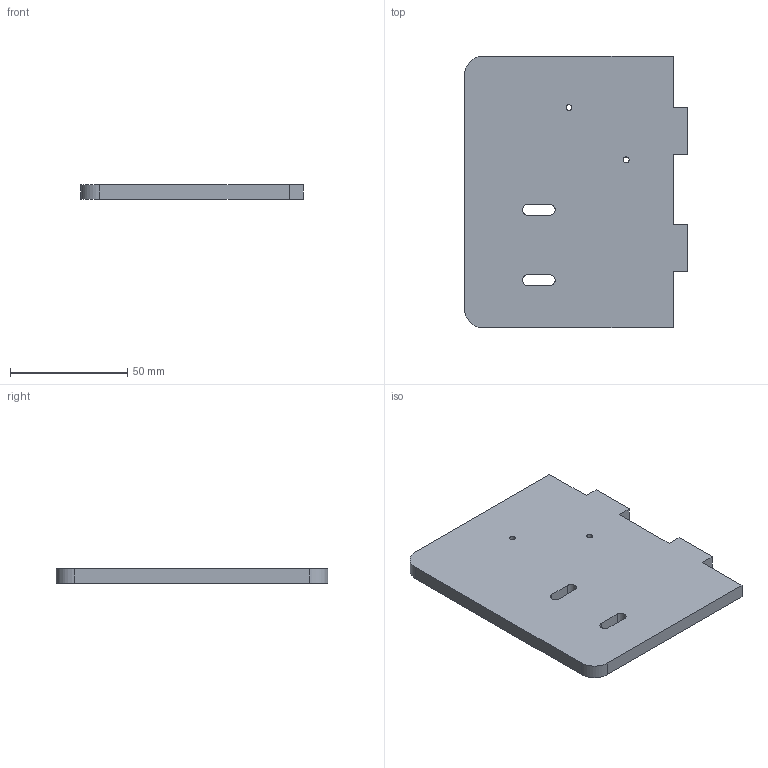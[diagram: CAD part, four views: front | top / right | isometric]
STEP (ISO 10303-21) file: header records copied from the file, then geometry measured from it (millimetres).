
FILE_DESCRIPTION(('Open CASCADE Model'),'2;1');
FILE_NAME('Open CASCADE Shape Model','2026-10-14T18:02:54',('Author'),( 'Open CASCADE'),'Open CASCADE STEP processor 7.9','Open CASCADE 7.9' ,'Unknown');
FILE_SCHEMA(('AUTOMOTIVE_DESIGN { 1 0 10303 214 1 1 1 1 }'));
Length unit declared in the file: millimetre
Products named in the file (1): Open CASCADE STEP translator 7.9 2
Bounding box: 95 x 116 x 6 mm (x, y, z)
Volume: 62309.2 mm3; surface area: 24109.1 mm2
Topology: 1 solids, 1 shells, 32 faces, 81 edges, 54 vertices
Faces by surface type: plane 21, cylinder 11
Full cylindrical faces by diameter (mm): 2.5 x5
Entity records: 2081 total; most frequent: CARTESIAN_POINT 448, DIRECTION 298, LINE 183, VECTOR 183, ORIENTED_EDGE 162, PCURVE 162, DEFINITIONAL_REPRESENTATION 162, EDGE_CURVE 81
